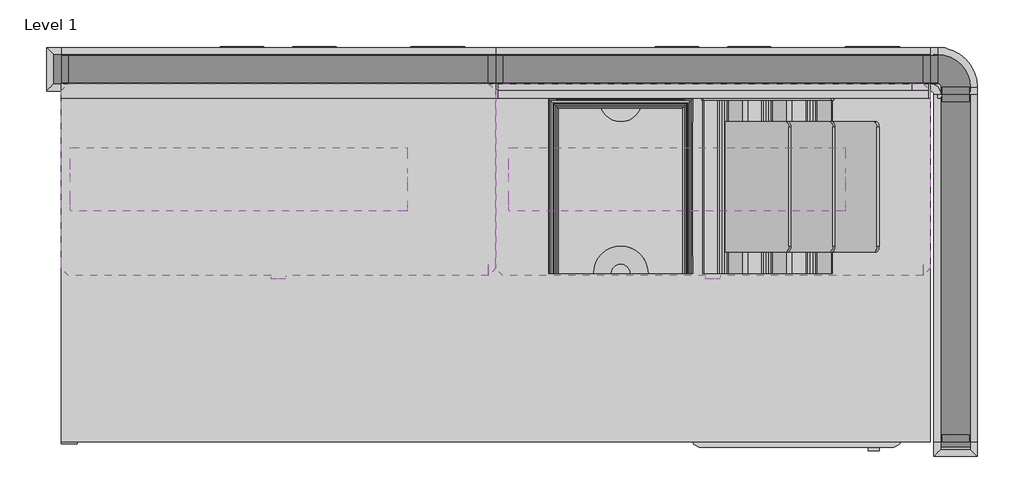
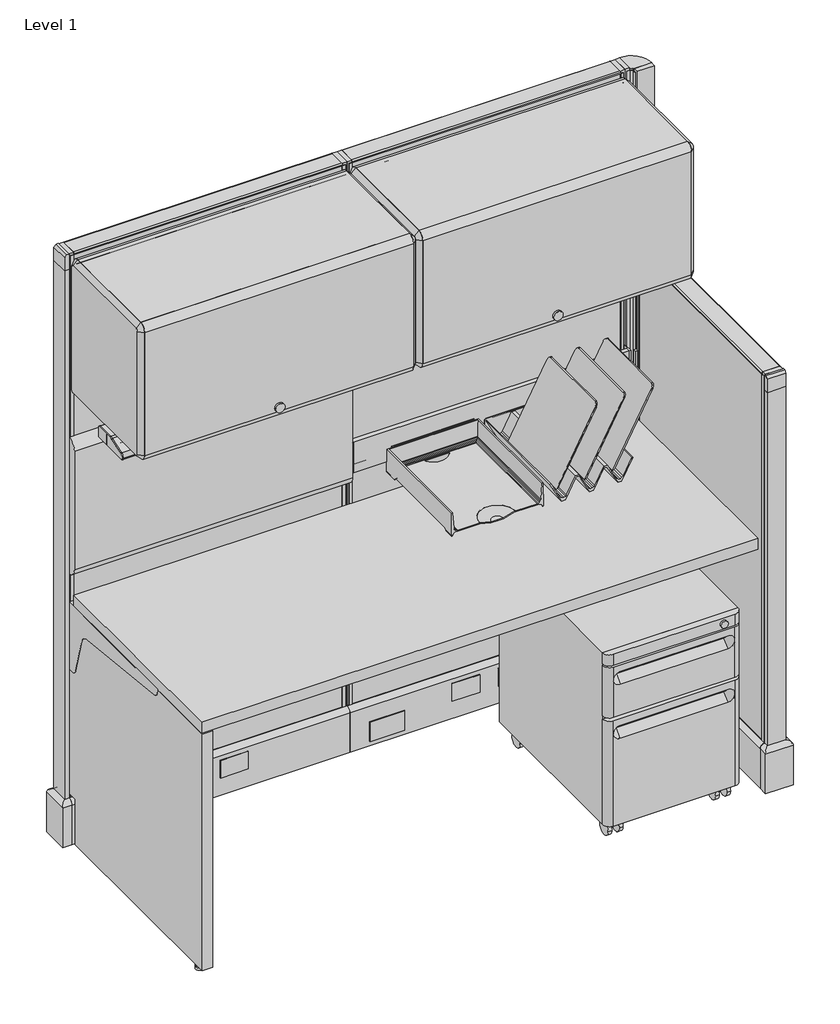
# One storey, incomplete: 16 furniture elements, 2 light fixtures.
"""IFC4 building model written with IfcOpenShell, lengths in millimetres."""

from ifc_helpers import new_model, si_unit, origin, place, context, project, spatial, transform, mapped, element, save
from components import furniture_84c54a78, furniture_22e63fa4, furniture_3b64b56a, furniture_a96273da, furniture_e325dd1e, furniture_02a821be, furniture_4d9edb30, furniture_a2665887, furniture_75fc3fe0, furniture_b7c7402d, furniture_d2009061, furniture_cbf60e6f, furniture_5c2546f9, furniture_ba981915, light_fixture_da618033

model = new_model("IFC4")

# Units and contexts
model_context = context("Model", 3, world=origin())
ifc_project = project(units=[si_unit("LENGTHUNIT", "METRE", prefix="MILLI")], contexts=[model_context])

# Site, building, storey
site = spatial("IfcSite", under=ifc_project)
building = spatial("IfcBuilding", under=site)
storey = spatial("IfcBuildingStorey", under=building, Name="Level 1", Elevation=0.0)

# Furniture
placement = place(None, origin())
furniture_shape = furniture_84c54a78(model_context)
element("IfcFurniture", 1, ObjectType="HermanMiller_QuadrantFiling_G5111_MobilePedestal : 21-1/2\"H x 20\"D x 15\"W BF", at=placement, inside=storey, context=model_context, shape_type="MappedRepresentation", body=[
    mapped(furniture_shape, transform((1289.5937211, -425.197283, 0.0), x_axis=(1.0, 0.0, 0.0), y_axis=(0.0, 1.0, 0.0), z_axis=(0.0, 0.0, 1.0))),
])
furniture_2_shape = furniture_22e63fa4(model_context)
element("IfcFurniture", 2, ObjectType="HermanMiller_ActionOffice_A1110_Hard-SurfacedPanelStandardBase : 47\"H x 24\"W-N", at=placement, inside=storey, context=model_context, shape_type="MappedRepresentation", body=[
    mapped(furniture_2_shape, transform((1568.4528856, -374.4172432, 0.0), x_axis=(1.1019615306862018e-05, -0.9999999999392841, 0.0), y_axis=(0.9999999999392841, 1.1019615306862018e-05, 0.0), z_axis=(0.0, 0.0, 1.0))),
])
furniture_3_shape = furniture_3b64b56a(model_context)
element("IfcFurniture", 3, ObjectType="HermanMiller_ActionOffice_A1110_Hard-SurfacedPanelStandardBase : 67\"H x 30\"W-G", at=placement, inside=storey, context=model_context, shape_type="MappedRepresentation", body=[
    mapped(furniture_3_shape, transform((381.0001611, -25.1676, 0.0), x_axis=(1.0, 0.0, 0.0), y_axis=(0.0, 1.0, 0.0), z_axis=(0.0, 0.0, 1.0))),
])
element("IfcFurniture", 4, ObjectType="HermanMiller_ActionOffice_A1110_Hard-SurfacedPanelStandardBase : 67\"H x 30\"W-G", at=placement, inside=storey, context=model_context, shape_type="MappedRepresentation", body=[
    mapped(furniture_3_shape, transform((1143.0001611, -25.1676, 0.0), x_axis=(1.0, 0.0, 0.0), y_axis=(0.0, 1.0, 0.0), z_axis=(0.0, 0.0, 1.0))),
])
furniture_4_shape = furniture_a96273da(model_context)
element("IfcFurniture", 5, ObjectType="HermanMiller_ActionOffice_A2310_Sq-EdgeRectangularWorkSurface : 24\"D x 60\"W", at=placement, inside=storey, context=model_context, shape_type="MappedRepresentation", body=[
    mapped(furniture_4_shape, transform((762.0001611, -364.8926, 0.0), x_axis=(1.0, 0.0, 0.0), y_axis=(0.0, 1.0, 0.0), z_axis=(0.0, 0.0, 1.0))),
])
furniture_5_shape = furniture_e325dd1e(model_context)
element("IfcFurniture", 6, ObjectType="HermanMiller_ActionOffice_A3352_B-StyleFlipperDoorUnit : 15 1/2\"H x 13\"D x 30\"W", at=placement, inside=storey, context=model_context, shape_type="MappedRepresentation", body=[
    mapped(furniture_5_shape, transform((1143.0001611, -231.5426, 0.0), x_axis=(1.0, 0.0, 0.0), y_axis=(0.0, 1.0, 0.0), z_axis=(0.0, 0.0, 1.0))),
])
element("IfcFurniture", 7, ObjectType="HermanMiller_ActionOffice_A3352_B-StyleFlipperDoorUnit : 15 1/2\"H x 13\"D x 30\"W", at=placement, inside=storey, context=model_context, shape_type="MappedRepresentation", body=[
    mapped(furniture_5_shape, transform((381.0001611, -231.5426, 0.0), x_axis=(1.0, 0.0, 0.0), y_axis=(0.0, 1.0, 0.0), z_axis=(0.0, 0.0, 1.0))),
])
furniture_6_shape = furniture_02a821be(model_context)
element("IfcFurniture", 8, ObjectType="HermanMiller_ActionOffice_A3410_B-StyleTackboard : 16\"H x 30\"W", at=placement, inside=storey, context=model_context, shape_type="MappedRepresentation", body=[
    mapped(furniture_6_shape, transform((381.0001611, -63.2676, 0.0), x_axis=(1.0, 0.0, 0.0), y_axis=(0.0, 1.0, 0.0), z_axis=(0.0, 0.0, 1.0))),
])
furniture_7_shape = furniture_4d9edb30(model_context)
element("IfcFurniture", 9, ObjectType="HermanMiller_ActionOffice_A3610_ToolBar : 4\"H x 30\"W", at=placement, inside=storey, context=model_context, shape_type="MappedRepresentation", body=[
    mapped(furniture_7_shape, transform((1143.0001611, -63.2675996, 0.0), x_axis=(1.0, 0.0, 0.0), y_axis=(0.0, 1.0, 0.0), z_axis=(0.0, 0.0, 1.0))),
])
furniture_8_shape = furniture_a2665887(model_context)
element("IfcFurniture", 10, ObjectType="HermanMiller_ThrivePortfolio_Y7216_PaperTray : 3\"H x 12\"D x 10\"W", at=placement, inside=storey, context=model_context, shape_type="MappedRepresentation", body=[
    mapped(furniture_8_shape, transform((980.9862611, -229.98812, 0.0), x_axis=(1.0, 0.0, 0.0), y_axis=(0.0, 1.0, 0.0), z_axis=(0.0, 0.0, 1.0))),
])
furniture_9_shape = furniture_75fc3fe0(model_context)
element("IfcFurniture", 11, ObjectType="HermanMiller_ThrivePortfolio_Y7218_DiagonalTray : 8 1/2\"H x 12\"D x 13\"W", at=placement, inside=storey, context=model_context, shape_type="MappedRepresentation", body=[
    mapped(furniture_9_shape, transform((1238.6563182, -229.98812, 0.0), x_axis=(1.0, 0.0, 0.0), y_axis=(0.0, 1.0, 0.0), z_axis=(0.0, 0.0, 1.0))),
])
furniture_10_shape = furniture_b7c7402d(model_context)
element("IfcFurniture", 12, ObjectType="HermanMiller_ActionOffice_A2380_WorkSuraceSupportPanelEnd : 24\"D", at=placement, inside=storey, context=model_context, shape_type="MappedRepresentation", body=[
    mapped(furniture_10_shape, transform((0.0001611, -682.3926, 0.0), x_axis=(1.0, 0.0, 0.0), y_axis=(0.0, 1.0, 0.0), z_axis=(0.0, 0.0, 1.0))),
])
furniture_11_shape = furniture_d2009061(model_context)
element("IfcFurniture", 13, ObjectType="HermanMiller_ActionOffice_AO259_AO272_FinishedEndChangeOfHeight : 32\"H Panel/Conn", at=placement, inside=storey, context=model_context, shape_type="MappedRepresentation", body=[
    mapped(furniture_11_shape, transform((1482.7219603, -136.4897534, 0.0), x_axis=(1.1019615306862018e-05, -0.9999999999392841, 0.0), y_axis=(0.9999999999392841, 1.1019615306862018e-05, 0.0), z_axis=(0.0, 0.0, 1.0))),
])
furniture_12_shape = furniture_cbf60e6f(model_context)
element("IfcFurniture", 14, ObjectType="HermanMiller_ActionOffice_A1271_FinishedEndStandardBase : 47\"H", at=placement, inside=storey, context=model_context, shape_type="MappedRepresentation", body=[
    mapped(furniture_12_shape, transform((4017.166442, 1305.665792, 0.0), x_axis=(1.1019615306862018e-05, -0.9999999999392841, 0.0), y_axis=(0.9999999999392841, 1.1019615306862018e-05, 0.0), z_axis=(0.0, 0.0, 1.0))),
])
furniture_13_shape = furniture_5c2546f9(model_context)
element("IfcFurniture", 15, ObjectType="HermanMiller_ActionOffice_A1271_FinishedEndStandardBase : 67\"H", at=placement, inside=storey, context=model_context, shape_type="MappedRepresentation", body=[
    mapped(furniture_13_shape, transform((1984.8740406, -2473.891806, 0.0), x_axis=(-0.999999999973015, -7.3464084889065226e-06, 0.0), y_axis=(7.3464084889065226e-06, -0.999999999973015, 0.0), z_axis=(0.0, 0.0, 1.0))),
])
furniture_14_shape = furniture_ba981915(model_context)
element("IfcFurniture", 16, ObjectType="HermanMiller_ActionOffice_A1220_90ConnectorStandardBase : 67\"H 2-Way-Hard", at=placement, inside=storey, context=model_context, shape_type="MappedRepresentation", body=[
    mapped(furniture_14_shape, transform((1562.1001611, -39.6815413, 0.0), x_axis=(1.0, 0.0, 0.0), y_axis=(0.0, 1.0, 0.0), z_axis=(0.0, 0.0, 1.0))),
])

# Light fixtures
light_fixture_shape = light_fixture_da618033(model_context)
element("IfcLightFixture", 17, ObjectType="HermanMiller_SupplementalProducts_G6136_UtilityTaskLight : AO Etho Canvas 30W", at=placement, inside=storey, context=model_context, shape_type="MappedRepresentation", body=[
    mapped(light_fixture_shape, transform((1079.5382611, -218.8426, 0.0), x_axis=(1.0, 0.0, 0.0), y_axis=(0.0, 1.0, 0.0), z_axis=(0.0, 0.0, 1.0))),
])
element("IfcLightFixture", 18, ObjectType="HermanMiller_SupplementalProducts_G6136_UtilityTaskLight : AO Etho Canvas 30W", at=placement, inside=storey, context=model_context, shape_type="MappedRepresentation", body=[
    mapped(light_fixture_shape, transform((311.2771611, -218.8426, 0.0), x_axis=(1.0, 0.0, 0.0), y_axis=(0.0, 1.0, 0.0), z_axis=(0.0, 0.0, 1.0))),
])

save(model, "model.ifc")
